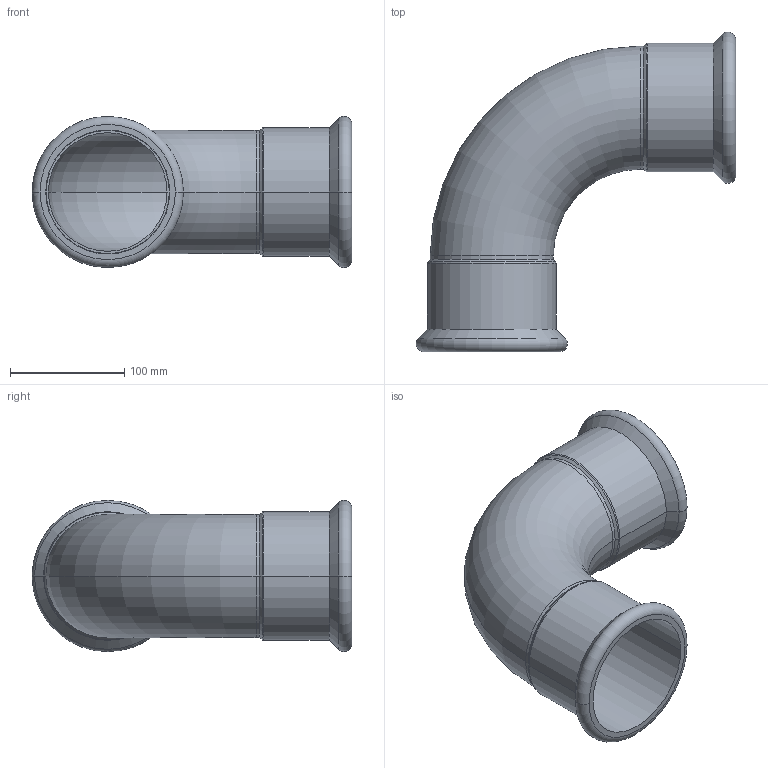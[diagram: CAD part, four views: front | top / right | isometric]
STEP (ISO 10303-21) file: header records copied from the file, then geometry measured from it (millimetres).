
FILE_DESCRIPTION(('CoCreate Modeling STEP Export'),'2;1');
FILE_NAME('C1408 108x108.stp','2014-11-07T16:47:45',(''),(''),'CoCreate Modeling STEP processor for AP214 (Solid Model)','CoCreate Modeling 17.00A 17-Jun-2010 (C) Parametric Technology GmbH','');
FILE_SCHEMA(('AUTOMOTIVE_DESIGN { 1 0 10303 214 1 1 1 1 }'));
Length unit declared in the file: millimetre
Products named in the file (2): C1408_108x108
Assembly tree (1 placements, depth 2):
  C1408_108x108
    C1408_108x108
Bounding box: 280.29 x 280.29 x 132.58 mm (x, y, z)
Volume: 360096.2 mm3; surface area: 266606.2 mm2
Topology: 1 solids, 1 shells, 46 faces, 96 edges, 56 vertices
Faces by surface type: cylinder 20, torus 12, cone 8, plane 6
Entity records: 1045 total; most frequent: ORIENTED_EDGE 192, DIRECTION 164, CARTESIAN_POINT 152, EDGE_CURVE 96, AXIS2_PLACEMENT_3D 68, VERTEX_POINT 56, EDGE_LOOP 52, FACE_OUTER_BOUND 46
